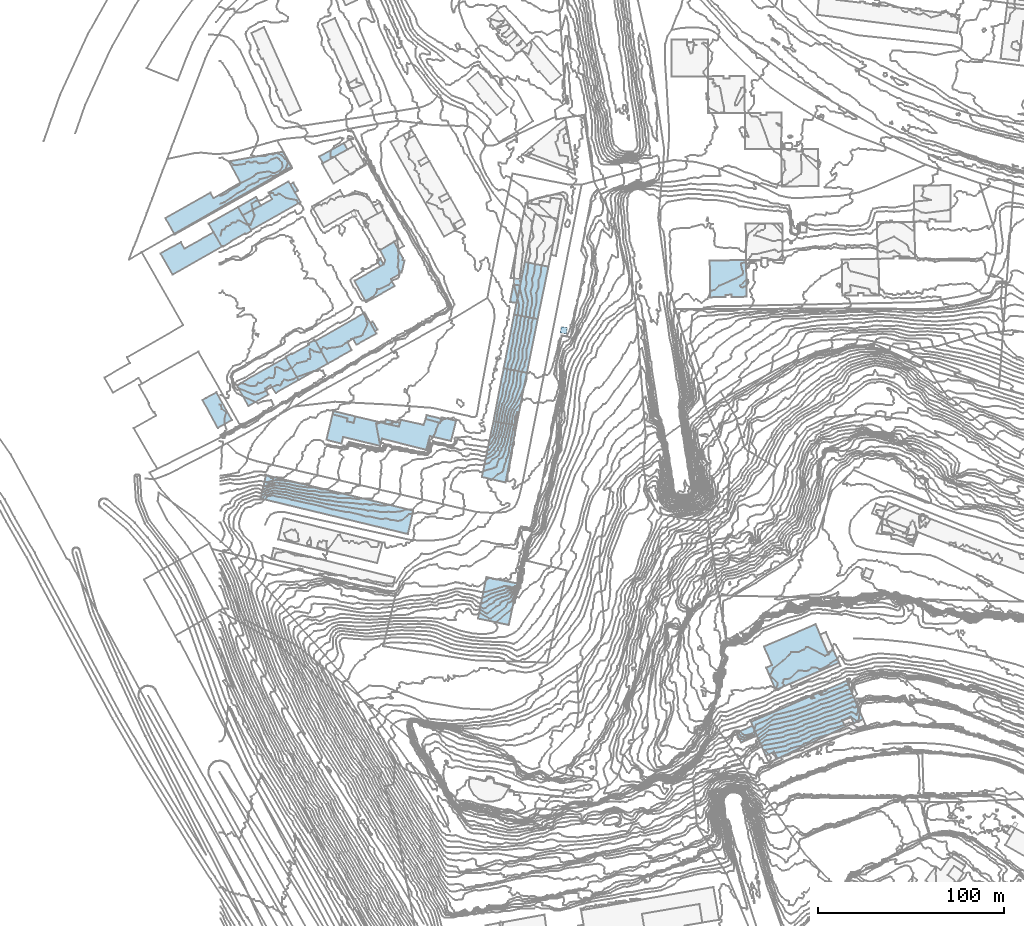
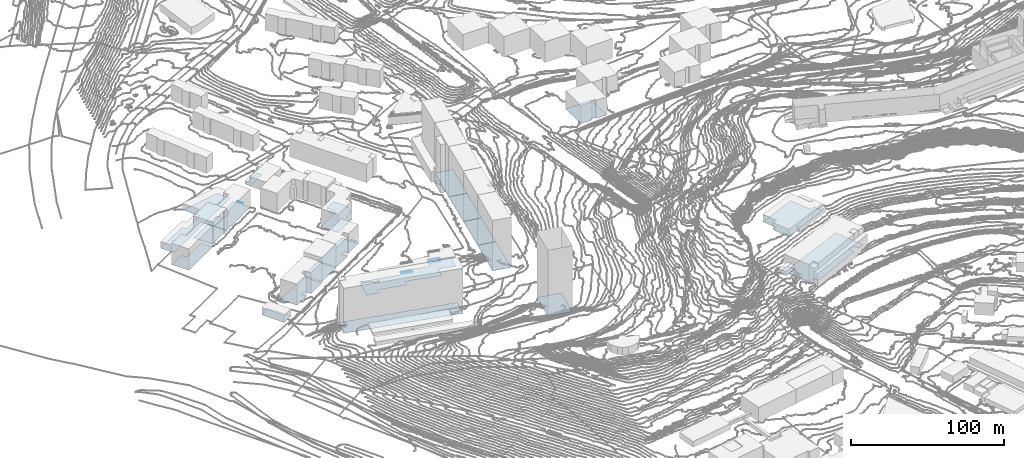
# Not in any storey, part 2 of 419: 32 footings.
"""IFC2X3 model written with IfcOpenShell, lengths in metres."""

from ifc_helpers import new_model, si_unit, frame, origin_with_axes, place, context, subcontext, project, faceted_brep, element, save


model = new_model("IFC2X3")

# Units and contexts
model_context = context("Model", 3, precision=1e-05, world=origin_with_axes())
body_context = subcontext(model_context, "Body", "Model", "MODEL_VIEW")
ifc_project = project(units=[si_unit("AREAUNIT", "SQUARE_METRE"), si_unit("LENGTHUNIT", "METRE")], contexts=[model_context])

# Footings
footing_1_placement = place(None, frame((-32.2079795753, 483.2976909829, 7.1649999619), z_axis=(0.0, 0.0, 1.0), x_axis=(1.0, 0.0, 0.0)))
element("IfcFooting", 1, at=footing_1_placement, Name="Sol 0", PredefinedType="STRIP_FOOTING", context=body_context, shape_type="Brep", body=[
    faceted_brep([(28.6000000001, 11.2999999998, 0.0), (33.0, 3.6999999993, 0.0), (6.6000000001, -11.4000000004, 0.0), (0.0, 0.0, 0.0), (11.0, 6.0, 0.0), (12.9, 2.5999999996, 0.0)], [[[0, 1, 2]], [[3, 4, 5]], [[5, 0, 2]], [[2, 3, 5]]]),
])
footing_2_placement = place(None, frame((151.8920204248, 421.5976909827, 14.3413999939), z_axis=(0.0, 0.0, 1.0), x_axis=(1.0, 0.0, 0.0)))
element("IfcFooting", 2, at=footing_2_placement, Name="Sol 0", PredefinedType="STRIP_FOOTING", context=body_context, shape_type="Brep", body=[
    faceted_brep([(12.3999999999, -2.4000000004, 0.0), (0.0, 0.0, 0.0), (5.6, 28.7999999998, 0.0), (18.2, 26.3999999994, 0.0)], [[[0, 1, 2]], [[2, 3, 0]]]),
])
footing_3_placement = place(None, frame((157.0920204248, 466.4976909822, 15.0005000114), z_axis=(0.0, 0.0, 1.0), x_axis=(1.0, 0.0, 0.0)))
element("IfcFooting", 3, at=footing_3_placement, Name="Sol 0", PredefinedType="STRIP_FOOTING", context=body_context, shape_type="Brep", body=[
    faceted_brep([(4.2, 2.6000000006, 0.0), (3.7, -0.5, 0.0), (0.0, 0.0, 0.0), (0.7, 3.2000000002, 0.0)], [[[0, 1, 2]], [[2, 3, 0]]]),
])
footing_4_placement = place(None, frame((37.4920204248, 520.3976909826, 9.6730000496), z_axis=(0.0, 0.0, 1.0), x_axis=(1.0, 0.0, 0.0)))
element("IfcFooting", 4, at=footing_4_placement, Name="Sol 0", PredefinedType="STRIP_FOOTING", context=body_context, shape_type="Brep", body=[
    faceted_brep([(4.1, -3.5, 0.0), (2.5, -4.4000000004, 0.0), (0.0, 0.0, 0.0), (1.6, 0.9000000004, 0.0)], [[[0, 1, 2]], [[2, 3, 0]]]),
])
footing_5_placement = place(None, frame((80.4920204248, 446.0976909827, 9.7695999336), z_axis=(0.0, 0.0, 1.0), x_axis=(1.0, 0.0, 0.0)))
element("IfcFooting", 5, at=footing_5_placement, Name="Sol 0", PredefinedType="STRIP_FOOTING", context=body_context, shape_type="Brep", body=[
    faceted_brep([(3.7, -3.6000000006, 0.0), (2.4, -4.4000000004, 0.0), (0.0, 0.0, 0.0), (1.2, 0.7000000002, 0.0)], [[[0, 1, 2]], [[2, 3, 0]]]),
])
footing_6_placement = place(None, frame((52.9920204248, 535.1976909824, 9.8683998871), z_axis=(0.0, 0.0, 1.0), x_axis=(1.0, 0.0, 0.0)))
element("IfcFooting", 6, at=footing_6_placement, Name="Sol 0", PredefinedType="STRIP_FOOTING", context=body_context, shape_type="Brep", body=[
    faceted_brep([(15.2, 3.7999999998, 0.0), (2.0, -3.5, 0.0), (0.0, 0.0, 0.0), (13.2, 7.2999999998, 0.0)], [[[0, 1, 2]], [[2, 3, 0]]]),
])
footing_7_placement = place(None, frame((109.9920204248, 394.3976909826, 13.4939999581), z_axis=(0.0, 0.0, 1.0), x_axis=(1.0, 0.0, 0.0)))
element("IfcFooting", 7, at=footing_7_placement, Name="Sol 0", PredefinedType="STRIP_FOOTING", context=body_context, shape_type="Brep", body=[
    faceted_brep([(0.6, 2.0999999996, 0.0), (8.4, 0.0999999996, 0.0), (7.7999999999, -2.0, 0.0), (0.0, 0.0, 0.0)], [[[0, 1, 2]], [[2, 3, 0]]]),
])
footing_8_placement = place(None, frame((-9.6079795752, 404.6976909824, 6.7739999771), z_axis=(0.0, 0.0, 1.0), x_axis=(1.0, 0.0, 0.0)))
element("IfcFooting", 8, at=footing_8_placement, Name="Sol 0", PredefinedType="STRIP_FOOTING", context=body_context, shape_type="Brep", body=[
    faceted_brep([(0.0, 0.0, 0.0), (1.8999999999, 1.1000000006, 0.0), (7.3999999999, 4.1000000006, 0.0), (15.7999999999, -10.7000000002, 0.0), (8.2, -15.0, 0.0)], [[[0, 1, 2]], [[3, 4, 0]], [[0, 2, 3]]]),
])
footing_9_placement = place(None, frame((71.7920204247, 468.5976909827, 9.7140002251), z_axis=(0.0, 0.0, 1.0), x_axis=(1.0, 0.0, 0.0)))
element("IfcFooting", 9, at=footing_9_placement, Name="Sol 0", PredefinedType="STRIP_FOOTING", context=body_context, shape_type="Brep", body=[
    faceted_brep([(6.3, -11.5, 0.0), (0.0, 0.0, 0.0), (15.8, 8.7999999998, 0.0), (19.6000000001, 0.8999999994, 0.0), (21.6000000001, -2.9000000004, 0.0), (24.1000000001, 4.7000000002, 0.0), (23.9, 3.3999999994, 0.0), (26.9, 10.7999999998, 0.0), (25.3, 4.2999999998, 0.0), (21.3, 20.8999999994, 0.0), (26.1000000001, 12.2000000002, 0.0), (25.9, 11.0999999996, 0.0), (16.6000000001, 11.2000000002, 0.0), (13.8, 16.5, 0.0)], [[[0, 1, 2]], [[3, 4, 0]], [[5, 6, 3]], [[7, 8, 5]], [[9, 10, 11]], [[12, 13, 9]], [[3, 0, 2]], [[7, 5, 3]], [[12, 9, 11]], [[3, 2, 12]], [[11, 7, 3]], [[3, 12, 11]]]),
])
footing_10_placement = place(None, frame((50.9920204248, 436.3976909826, 9.217900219), z_axis=(0.0, 0.0, 1.0), x_axis=(1.0, 0.0, 0.0)))
element("IfcFooting", 10, at=footing_10_placement, Name="Sol 0", PredefinedType="STRIP_FOOTING", context=body_context, shape_type="Brep", body=[
    faceted_brep([(0.0, 0.0, 0.0), (26.4, 15.0999999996, 0.0), (31.9, 5.2999999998, 0.0), (19.2999999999, -5.0, 0.0), (6.7, -12.0999999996, 0.0), (32.7, 3.9000000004, 0.0), (21.9, -2.0999999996, 0.0), (20.1, 1.0999999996, 0.0), (17.2, -0.5, 0.0)], [[[0, 1, 2]], [[3, 4, 0]], [[5, 6, 7]], [[0, 2, 5]], [[8, 3, 0]], [[0, 5, 7]], [[7, 8, 0]]]),
])
footing_11_placement = place(None, frame((-6.3079795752, 499.2976909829, 9.6026999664), z_axis=(0.0, 0.0, 1.0), x_axis=(1.0, 0.0, 0.0)))
element("IfcFooting", 11, at=footing_11_placement, Name="Sol 0", PredefinedType="STRIP_FOOTING", context=body_context, shape_type="Brep", body=[
    faceted_brep([(7.6, -12.1000000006, 0.0), (7.1, -12.3000000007, 0.0), (0.0, 0.0, 0.0), (12.4, -9.3000000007, 0.0), (7.8, -12.5, 0.0), (22.7000000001, -4.1000000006, 0.0), (19.8, -5.8000000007, 0.0), (19.5, -5.3000000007, 0.0), (15.8, 8.7999999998, 0.0), (22.8, -3.5, 0.0)], [[[0, 1, 2]], [[3, 4, 0]], [[5, 6, 7]], [[8, 9, 5]], [[0, 2, 8]], [[8, 5, 7]], [[3, 0, 8]], [[8, 7, 3]]]),
])
footing_12_placement = place(None, frame((88.1920204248, 391.9976909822, 12.8979999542), z_axis=(0.0, 0.0, 1.0), x_axis=(1.0, 0.0, 0.0)))
element("IfcFooting", 12, at=footing_12_placement, Name="Sol 0", PredefinedType="STRIP_FOOTING", context=body_context, shape_type="Brep", body=[
    faceted_brep([(0.5, 2.1000000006, 0.0), (8.1, 0.4000000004, 0.0), (7.5, -1.6999999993, 0.0), (0.0, 0.0, 0.0)], [[[0, 1, 2]], [[2, 3, 0]]]),
])
footing_13_placement = place(None, frame((60.0920204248, 396.8976909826, 12.1372999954), z_axis=(0.0, 0.0, 1.0), x_axis=(1.0, 0.0, 0.0)))
element("IfcFooting", 13, at=footing_13_placement, Name="Sol 0", PredefinedType="STRIP_FOOTING", context=body_context, shape_type="Brep", body=[
    faceted_brep([(8.0, -2.0999999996, 0.0), (0.0, 0.0, 0.0), (0.4, 1.7999999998, 0.0), (11.3, -4.5, 0.0), (7.7, -3.7000000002, 0.0), (12.2, -1.0999999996, 0.0)], [[[0, 1, 2]], [[3, 4, 0]], [[0, 2, 5]], [[5, 3, 0]]]),
])
footing_14_placement = place(None, frame((11.9920204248, 503.6976909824, 9.7199997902), z_axis=(0.0, 0.0, 1.0), x_axis=(1.0, 0.0, 0.0)))
element("IfcFooting", 14, at=footing_14_placement, Name="Sol 0", PredefinedType="STRIP_FOOTING", context=body_context, shape_type="Brep", body=[
    faceted_brep([(31.0, 7.1000000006, 0.0), (4.5, -7.8999999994, 0.0), (0.0, 0.0, 0.0), (13.9, 12.2000000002, 0.0), (24.6, 18.2000000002, 0.0), (15.7999999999, 8.6000000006, 0.0)], [[[0, 1, 2]], [[3, 4, 0]], [[0, 2, 5]], [[5, 3, 0]]]),
])
footing_15_placement = place(None, frame((8.7920204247, 412.5976909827, 7.6424999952), z_axis=(0.0, 0.0, 1.0), x_axis=(1.0, 0.0, 0.0)))
element("IfcFooting", 15, at=footing_15_placement, Name="Sol 0", PredefinedType="STRIP_FOOTING", context=body_context, shape_type="Brep", body=[
    faceted_brep([(26.2000000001, 14.7999999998, 0.0), (33.2000000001, 2.7999999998, 0.0), (20.9, -4.1000000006, 0.0), (6.3, -11.1000000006, 0.0), (0.0, 0.0, 0.0), (15.1000000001, -1.7000000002, 0.0), (17.0, -5.0, 0.0), (18.1000000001, 0.0999999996, 0.0)], [[[0, 1, 2]], [[3, 4, 0]], [[5, 6, 3]], [[0, 2, 7]], [[5, 3, 0]], [[0, 7, 5]]]),
])
footing_16_placement = place(None, frame((276.7920204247, 226.2976909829, 48.1744001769), z_axis=(0.0, 0.0, 1.0), x_axis=(1.0, 0.0, 0.0)))
element("IfcFooting", 16, at=footing_16_placement, Name="Sol 0", PredefinedType="STRIP_FOOTING", context=body_context, shape_type="Brep", body=[
    faceted_brep([(8.6000000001, 3.6999999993, 0.0), (10.9, -1.6000000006, 0.0), (2.4, -5.3000000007, 0.0), (0.0, 0.0, 0.0)], [[[0, 1, 2]], [[2, 3, 0]]]),
])
footing_17_placement = place(None, frame((155.2920204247, 457.1976909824, 14.2041998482), z_axis=(0.0, 0.0, 1.0), x_axis=(1.0, 0.0, 0.0)))
element("IfcFooting", 17, at=footing_17_placement, Name="Sol 0", PredefinedType="STRIP_FOOTING", context=body_context, shape_type="Brep", body=[
    faceted_brep([(5.5, 8.7999999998, 0.0), (3.6000000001, -0.5999999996, 0.0), (0.0, 0.0, 0.0), (1.8, 9.2999999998, 0.0)], [[[0, 1, 2]], [[2, 3, 0]]]),
])
footing_18_placement = place(None, frame((9.4920204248, 508.0976909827, 9.6026999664), z_axis=(0.0, 0.0, 1.0), x_axis=(1.0, 0.0, 0.0)))
element("IfcFooting", 18, at=footing_18_placement, Name="Sol 0", PredefinedType="STRIP_FOOTING", context=body_context, shape_type="Brep", body=[
    faceted_brep([(12.2, 0.8999999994, 0.0), (2.5, -4.4000000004, 0.0), (0.0, 0.0, 0.0), (9.6, 5.5, 0.0)], [[[0, 1, 2]], [[2, 3, 0]]]),
])
footing_19_placement = place(None, frame((34.9920204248, 427.3976909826, 8.6459999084), z_axis=(0.0, 0.0, 1.0), x_axis=(1.0, 0.0, 0.0)))
element("IfcFooting", 19, at=footing_19_placement, Name="Sol 0", PredefinedType="STRIP_FOOTING", context=body_context, shape_type="Brep", body=[
    faceted_brep([(16.0, 9.0, 0.0), (22.7, -3.0999999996, 0.0), (7.0, -12.0, 0.0), (12.1, 7.5, 0.0), (15.2999999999, 9.2999999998, 0.0), (15.6, 8.7999999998, 0.0), (0.2999999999, 0.5999999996, 0.0), (3.1, 2.2000000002, 0.0), (3.2999999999, 1.9000000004, 0.0), (0.0, 0.0, 0.0), (0.5, 0.2999999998, 0.0), (12.4, 7.0, 0.0)], [[[0, 1, 2]], [[3, 4, 5]], [[6, 7, 8]], [[2, 9, 10]], [[5, 0, 2]], [[11, 3, 5]], [[10, 6, 8]], [[5, 2, 10]], [[10, 8, 11]], [[11, 5, 10]]]),
])
footing_20_placement = place(None, frame((-29.5079795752, 502.2976909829, 7.7300000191), z_axis=(0.0, 0.0, 1.0), x_axis=(1.0, 0.0, 0.0)))
element("IfcFooting", 20, at=footing_20_placement, Name="Sol 0", PredefinedType="STRIP_FOOTING", context=body_context, shape_type="Brep", body=[
    faceted_brep([(68.0, 26.5999999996, 0.0), (5.0, -8.9000000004, 0.0), (0.0, 0.0, 0.0), (34.1, 30.2999999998, 0.0), (63.0, 35.5, 0.0), (24.1, 13.5999999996, 0.0), (25.7999999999, 10.5999999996, 0.0), (40.2999999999, 19.0, 0.0)], [[[0, 1, 2]], [[3, 4, 0]], [[2, 5, 6]], [[7, 3, 0]], [[0, 2, 6]], [[6, 7, 0]]]),
])
footing_21_placement = place(None, frame((83.8920204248, 479.6976909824, 9.9632000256), z_axis=(0.0, 0.0, 1.0), x_axis=(1.0, 0.0, 0.0)))
element("IfcFooting", 21, at=footing_21_placement, Name="Sol 0", PredefinedType="STRIP_FOOTING", context=body_context, shape_type="Brep", body=[
    faceted_brep([(1.8999999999, 1.0, 0.0), (3.7, -2.2999999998, 0.0), (1.7999999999, -3.2999999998, 0.0), (0.0, 0.0, 0.0)], [[[0, 1, 2]], [[2, 3, 0]]]),
])
footing_22_placement = place(None, frame((23.5920204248, 360.6976909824, 13.1479997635), z_axis=(0.0, 0.0, 1.0), x_axis=(1.0, 0.0, 0.0)))
element("IfcFooting", 22, at=footing_22_placement, Name="Sol 0", PredefinedType="STRIP_FOOTING", context=body_context, shape_type="Brep", body=[
    faceted_brep([(0.8, 3.7000000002, 0.0), (4.9, 2.6000000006, 0.0), (4.1, -1.0999999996, 0.0), (0.0, 0.0, 0.0)], [[[0, 1, 2]], [[2, 3, 0]]]),
])
footing_23_placement = place(None, frame((157.4920204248, 450.3976909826, 14.4179998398), z_axis=(0.0, 0.0, 1.0), x_axis=(1.0, 0.0, 0.0)))
element("IfcFooting", 23, at=footing_23_placement, Name="Sol 0", PredefinedType="STRIP_FOOTING", context=body_context, shape_type="Brep", body=[
    faceted_brep([(12.6, -2.4000000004, 0.0), (0.0, 0.0, 0.0), (5.7999999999, 28.2000000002, 0.0), (18.4, 25.7000000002, 0.0)], [[[0, 1, 2]], [[2, 3, 0]]]),
])
footing_24_placement = place(None, frame((291.4920204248, 272.4976909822, 55.600801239), z_axis=(0.0, 0.0, 1.0), x_axis=(1.0, 0.0, 0.0)))
element("IfcFooting", 24, at=footing_24_placement, Name="Sol 0", PredefinedType="STRIP_FOOTING", context=body_context, shape_type="Brep", body=[
    faceted_brep([(34.2, -3.1999999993, 0.0), (37.2999999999, -1.8999999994, 0.0), (40.2999999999, -8.6999999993, 0.0), (0.0, 0.0, 0.0), (27.7, 11.9000000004, 0.0), (6.2999999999, -23.2999999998, 0.0), (1.2, -11.3999999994, 0.0), (4.2999999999, -10.0, 0.0)], [[[0, 1, 2]], [[3, 4, 0]], [[5, 6, 7]], [[0, 2, 5]], [[7, 3, 0]], [[0, 5, 7]]]),
])
footing_25_placement = place(None, frame((138.0920204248, 287.3976909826, 24.9659996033), z_axis=(0.0, 0.0, 1.0), x_axis=(1.0, 0.0, 0.0)))
element("IfcFooting", 25, at=footing_25_placement, Name="Sol 0", PredefinedType="STRIP_FOOTING", context=body_context, shape_type="Brep", body=[
    faceted_brep([(4.5, 22.2000000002, 0.0), (21.2, 18.7999999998, 0.0), (16.5, -3.4000000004, 0.0), (0.0, 0.0, 0.0)], [[[0, 1, 2]], [[2, 3, 0]]]),
])
footing_26_placement = place(None, frame((262.3920204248, 479.4976909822, 30.2231999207), z_axis=(0.0, 0.0, 1.0), x_axis=(1.0, 0.0, 0.0)))
element("IfcFooting", 26, at=footing_26_placement, Name="Sol 0", PredefinedType="STRIP_FOOTING", context=body_context, shape_type="Brep", body=[
    faceted_brep([(0.0, 0.0, 0.0), (19.5, 0.1000000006, 0.0), (19.7999999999, -19.5, 0.0), (8.3999999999, -19.6999999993, 0.0), (0.2, -19.7999999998, 0.0), (11.7, -19.5999999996, 0.0), (11.7, -18.3999999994, 0.0), (8.3999999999, -18.5, 0.0)], [[[0, 1, 2]], [[3, 4, 0]], [[2, 5, 6]], [[7, 3, 0]], [[0, 2, 6]], [[6, 7, 0]]]),
])
footing_27_placement = place(None, frame((284.4920204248, 232.0976909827, 42.5580001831), z_axis=(0.0, 0.0, 1.0), x_axis=(1.0, 0.0, 0.0)))
element("IfcFooting", 27, at=footing_27_placement, Name="Sol 0", PredefinedType="STRIP_FOOTING", context=body_context, shape_type="Brep", body=[
    faceted_brep([(12.5, -16.0, 0.0), (7.9, -18.2000000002, 0.0), (0.0, 0.0, 0.0), (50.7999999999, -2.6000000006, 0.0), (14.2999999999, -19.7000000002, 0.0), (60.2, 1.3999999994, 0.0), (55.1, -0.7000000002, 0.0), (53.5, 2.8999999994, 0.0), (51.4, 22.0999999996, 0.0), (48.9, 0.7999999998, 0.0)], [[[0, 1, 2]], [[3, 4, 0]], [[5, 6, 7]], [[0, 2, 8]], [[9, 3, 0]], [[8, 5, 7]], [[9, 0, 8]], [[8, 7, 9]]]),
])
footing_28_placement = place(None, frame((146.3920204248, 393.1976909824, 14.3413999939), z_axis=(0.0, 0.0, 1.0), x_axis=(1.0, 0.0, 0.0)))
element("IfcFooting", 28, at=footing_28_placement, Name="Sol 0", PredefinedType="STRIP_FOOTING", context=body_context, shape_type="Brep", body=[
    faceted_brep([(12.2999999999, -2.2000000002, 0.0), (0.0, 0.0, 0.0), (5.5, 28.4000000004, 0.0), (17.8999999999, 26.0, 0.0)], [[[0, 1, 2]], [[2, 3, 0]]]),
])
footing_29_placement = place(None, frame((56.7920204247, 383.2976909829, 12.182500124), z_axis=(0.0, 0.0, 1.0), x_axis=(1.0, 0.0, 0.0)))
element("IfcFooting", 29, at=footing_29_placement, Name="Sol 0", PredefinedType="STRIP_FOOTING", context=body_context, shape_type="Brep", body=[
    faceted_brep([(52.1000000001, 8.0, 0.0), (53.2000000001, 11.0999999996, 0.0), (61.0, 9.0999999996, 0.0), (38.9, 7.0, 0.0), (39.9, 10.6999999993, 0.0), (14.6000000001, 9.0999999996, 0.0), (15.5, 12.5, 0.0), (3.3, 13.5999999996, 0.0), (11.3, 11.5, 0.0), (11.0, 9.8999999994, 0.0), (8.1000000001, -2.1000000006, 0.0), (0.0, 0.0, 0.0), (29.8, 0.5999999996, 0.0), (28.8, -3.3000000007, 0.0), (9.0, 1.5, 0.0), (55.5, 2.0, 0.0), (53.5, -5.4000000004, 0.0), (69.6000000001, 10.1999999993, 0.0), (66.8, -0.7000000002, 0.0), (61.6000000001, 11.1999999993, 0.0), (61.8, 12.0, 0.0)], [[[0, 1, 2]], [[3, 4, 0]], [[5, 6, 3]], [[7, 8, 9]], [[10, 11, 7]], [[12, 13, 14]], [[15, 16, 12]], [[17, 18, 15]], [[19, 20, 17]], [[10, 7, 9]], [[15, 12, 14]], [[2, 19, 17]], [[14, 10, 9]], [[17, 15, 14]], [[14, 9, 5]], [[2, 17, 14]], [[14, 5, 3]], [[0, 2, 14]], [[14, 3, 0]]]),
])
footing_30_placement = place(None, frame((182.0920204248, 440.6976909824, 19.4979999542), z_axis=(0.0, 0.0, 1.0), x_axis=(1.0, 0.0, 0.0)))
element("IfcFooting", 30, at=footing_30_placement, Name="Sol 0", PredefinedType="STRIP_FOOTING", context=body_context, shape_type="Brep", body=[
    faceted_brep([(0.5, 3.4000000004, 0.0), (3.9, 2.9000000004, 0.0), (3.4, -0.5, 0.0), (0.0, 0.0, 0.0)], [[[0, 1, 2]], [[2, 3, 0]]]),
])
footing_31_placement = place(None, frame((140.1920204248, 363.2976909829, 14.4428000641), z_axis=(0.0, 0.0, 1.0), x_axis=(1.0, 0.0, 0.0)))
element("IfcFooting", 31, at=footing_31_placement, Name="Sol 0", PredefinedType="STRIP_FOOTING", context=body_context, shape_type="Brep", body=[
    faceted_brep([(0.0, 0.0, 0.0), (6.2000000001, 29.8999999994, 0.0), (18.5, 27.6999999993, 0.0), (12.7000000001, -2.9000000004, 0.0)], [[[0, 1, 2]], [[2, 3, 0]]]),
])
footing_32_placement = place(None, frame((21.4920204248, 351.7976909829, 13.1490001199), z_axis=(0.0, 0.0, 1.0), x_axis=(1.0, 0.0, 0.0)))
element("IfcFooting", 32, at=footing_32_placement, Name="Sol 0", PredefinedType="STRIP_FOOTING", context=body_context, shape_type="Brep", body=[
    faceted_brep([(6.2, 7.7999999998, 0.0), (7.0, 11.5, 0.0), (81.9, -6.5, 0.0), (0.0, 0.0, 0.0), (2.1, 8.8999999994, 0.0), (79.0, -19.1000000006, 0.0)], [[[0, 1, 2]], [[3, 4, 0]], [[2, 5, 3]], [[3, 0, 2]]]),
])

save(model, "model.ifc")
